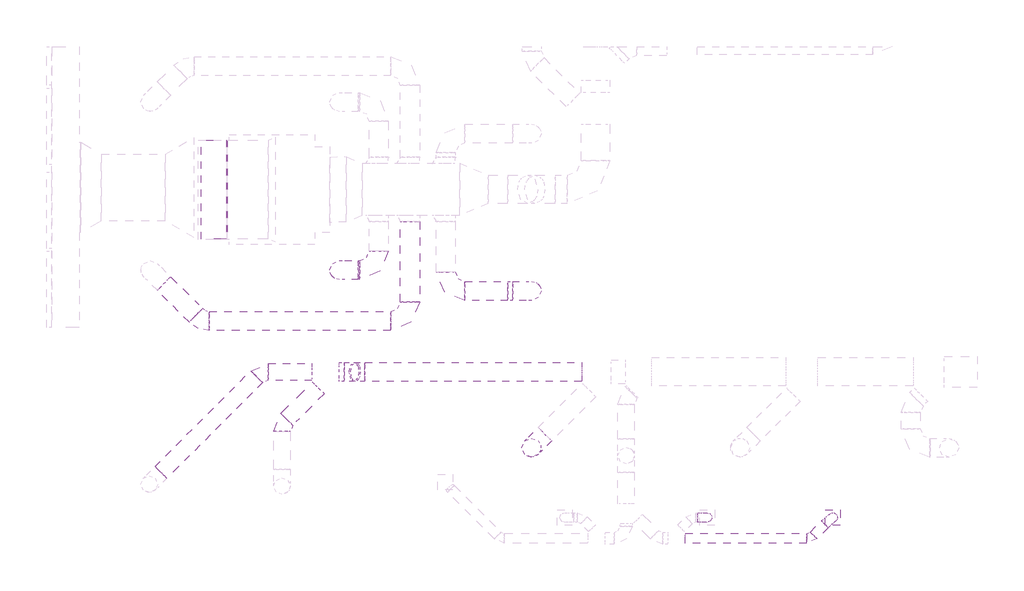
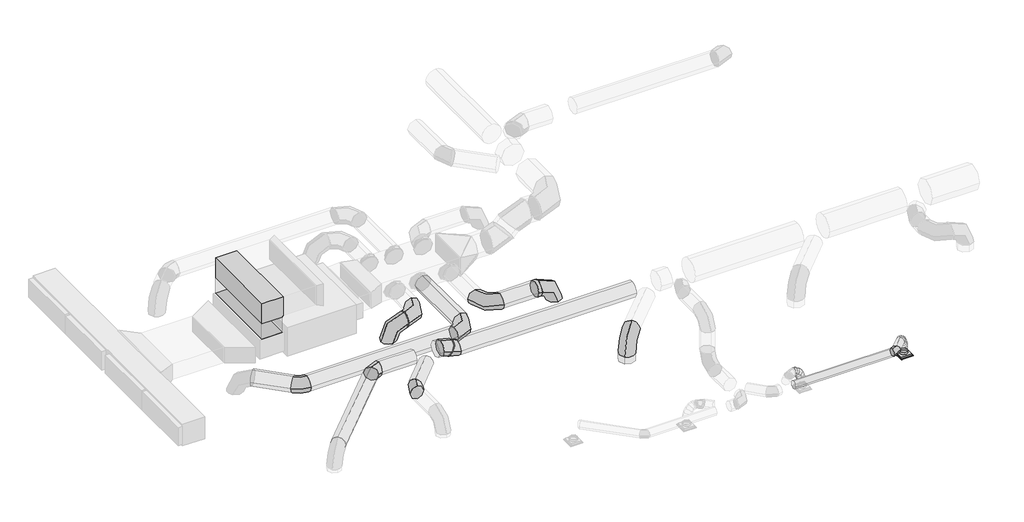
# One storey, part 2 of 33: 17 duct segments, 15 duct fittings, 1 air terminal.
"""IFC4 building model written with IfcOpenShell, lengths in millimetres."""

from ifc_helpers import new_model, si_unit, point, frame, frame_2d, origin, place, context, project, spatial, polyline, circle_curve, ellipse_curve, trimmed, segment, composite_curve, outline, extrude, transform, mapped, element, save
from ifc_brep_helpers import plane_surface, cylinder_surface, advanced_brep
from components import air_terminal_0721d01d, rectangular_elbow_mitered_standard_27e63693, rectangular_transition_angle_45_degree_474c034c, round_elbow_1_d_31d37a02, round_elbow_1_d_8aca8b6e, round_elbow_1_d_146a3901, round_elbow_1_d_9b829473, round_elbow_1_d_880e4a00, round_elbow_1_d_ab3aa7ba, round_transition_angle_45_degree_dc686760

model = new_model("IFC4")

# Units and contexts
model_context = context("Model", 3, world=origin())
ifc_project = project(units=[si_unit("LENGTHUNIT", "METRE", prefix="MILLI")], contexts=[model_context])

# Site, building, storey
site = spatial("IfcSite", under=ifc_project)
building = spatial("IfcBuilding", under=site)
storey = spatial("IfcBuildingStorey", under=building, Name="T.O. SLAB - 1ST", Elevation=-25.4)

# Air terminal
placement = place(None, origin())
air_terminal_shape = air_terminal_0721d01d(model_context)
element("IfcAirTerminal", 1, ObjectType="Titus-Round_Neck_Supply_Diffuser-PCS_Surface_Mount : PCS AA-08_12x12", at=placement, inside=storey, context=model_context, shape_type="MappedRepresentation", body=[
    mapped(air_terminal_shape, transform((14141.421449, 6517.7064145, 3022.6), x_axis=(1.0, 0.0, 0.0), y_axis=(0.0, -1.0, 0.0), z_axis=(0.0, 0.0, -1.0))),
])

# Duct fittings
rectangular_elbow_mitered_standard_shape = rectangular_elbow_mitered_standard_27e63693(model_context)
element("IfcDuctFitting", 2, ObjectType="Rectangular Elbow - Mitered : Standard", at=placement, inside=storey, context=model_context, shape_type="MappedRepresentation", body=[
    mapped(rectangular_elbow_mitered_standard_shape, transform((939.1447938, 13514.942909, 5267.325), x_axis=(0.0, 0.0, 1.0), y_axis=(1.0, 0.0, 0.0), z_axis=(0.0, 1.0, 0.0))),
])
rectangular_transition_angle_45_degree_shape = rectangular_transition_angle_45_degree_474c034c(model_context)
element("IfcDuctFitting", 3, ObjectType="Rectangular Transition - Angle : 45 Degree", at=placement, inside=storey, context=model_context, shape_type="MappedRepresentation", body=[
    mapped(rectangular_transition_angle_45_degree_shape, transform((939.1447938, 13514.942909, 4546.6), x_axis=(0.0, 0.0, 1.0), y_axis=(0.0, 1.0, 0.0), z_axis=(-1.0, 0.0, 0.0))),
])
round_elbow_1_d_shape = round_elbow_1_d_31d37a02(model_context)
element("IfcDuctFitting", 4, ObjectType="Round Elbow : 1 D", at=placement, inside=storey, context=model_context, shape_type="MappedRepresentation", body=[
    mapped(round_elbow_1_d_shape, transform((4057.8113362, 9627.2657862, 4826.0), x_axis=(-1.0, 0.0, 0.0), y_axis=(0.0, 0.0, 1.0), z_axis=(0.0, 1.0, 0.0))),
])
element("IfcDuctFitting", 5, ObjectType="Round Elbow : 1 D", at=placement, inside=storey, context=model_context, shape_type="MappedRepresentation", body=[
    mapped(round_elbow_1_d_shape, transform((3837.8408836, 9627.2657862, 4953.0), x_axis=(-0.8660254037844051, 0.0, 0.5000000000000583), y_axis=(-0.5000000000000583, 0.0, -0.8660254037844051), z_axis=(0.0, -1.0, 0.0))),
])
round_elbow_1_d_2_shape = round_elbow_1_d_8aca8b6e(model_context)
element("IfcDuctFitting", 6, ObjectType="Round Elbow : 1 D", at=placement, inside=storey, context=model_context, shape_type="MappedRepresentation", body=[
    mapped(round_elbow_1_d_2_shape, transform((7715.7566032, 8009.0686647, 4826.0), x_axis=(0.0, 0.0, 1.0), y_axis=(0.7067276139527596, 0.7074857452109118, 0.0), z_axis=(-0.7074857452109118, 0.7067276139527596, 0.0))),
])
element("IfcDuctFitting", 7, ObjectType="Round Elbow : 1 D", at=placement, inside=storey, context=model_context, shape_type="MappedRepresentation", body=[
    mapped(round_elbow_1_d_2_shape, transform((5889.3958641, 11352.970022, 4324.35), x_axis=(0.0, -1.0, 0.0), y_axis=(1.0, 0.0, 0.0), z_axis=(0.0, 0.0, 1.0))),
])
element("IfcDuctFitting", 8, ObjectType="Round Elbow : 1 D", at=placement, inside=storey, context=model_context, shape_type="MappedRepresentation", body=[
    mapped(round_elbow_1_d_2_shape, transform((7721.5404612, 11356.0910045, 4324.35), x_axis=(0.0, 0.0, 1.0), y_axis=(-1.0, 0.0, 0.0), z_axis=(0.0, -1.0, 0.0))),
])
element("IfcDuctFitting", 9, ObjectType="Round Elbow : 1 D", at=placement, inside=storey, context=model_context, shape_type="MappedRepresentation", body=[
    mapped(round_elbow_1_d_2_shape, transform((4462.1769123, 11800.1985722, 4324.35), x_axis=(1.0, 0.0, 0.0), y_axis=(0.0, 1.0, 0.0), z_axis=(0.0, 0.0, 1.0))),
])
element("IfcDuctFitting", 10, ObjectType="Round Elbow : 1 D", at=placement, inside=storey, context=model_context, shape_type="MappedRepresentation", body=[
    mapped(round_elbow_1_d_2_shape, transform((3619.0860401, 11800.1985722, 4324.35), x_axis=(0.0, 0.0, 1.0), y_axis=(1.0, 0.0, 0.0), z_axis=(0.0, 1.0, 0.0))),
])
element("IfcDuctFitting", 11, ObjectType="Round Elbow : 1 D", at=placement, inside=storey, context=model_context, shape_type="MappedRepresentation", body=[
    mapped(round_elbow_1_d_2_shape, transform((5126.1463704, 10713.3656934, 4324.35), x_axis=(1.0, 0.0, 0.0), y_axis=(0.0, 1.0, 0.0), z_axis=(0.0, 0.0, 1.0))),
])
round_elbow_1_d_3_shape = round_elbow_1_d_146a3901(model_context)
element("IfcDuctFitting", 12, ObjectType="Round Elbow : 1 D", at=placement, inside=storey, context=model_context, shape_type="MappedRepresentation", body=[
    mapped(round_elbow_1_d_3_shape, transform((2396.8487535, 8509.4830635, 4953.0), x_axis=(-0.7071067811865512, -0.7071067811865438, 0.0), y_axis=(0.7071067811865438, -0.7071067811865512, 0.0), z_axis=(0.0, 0.0, 1.0))),
])
round_elbow_1_d_4_shape = round_elbow_1_d_9b829473(model_context)
element("IfcDuctFitting", 13, ObjectType="Round Elbow : 1 D", at=placement, inside=storey, context=model_context, shape_type="MappedRepresentation", body=[
    mapped(round_elbow_1_d_4_shape, transform((1961.5759441, 9627.2657862, 4953.0), x_axis=(-1.0, 0.0, 0.0), y_axis=(0.0, -1.0, 0.0), z_axis=(0.0, 0.0, 1.0))),
])
round_elbow_1_d_5_shape = round_elbow_1_d_880e4a00(model_context)
element("IfcDuctFitting", 14, ObjectType="Round Elbow : 1 D", at=placement, inside=storey, context=model_context, shape_type="MappedRepresentation", body=[
    mapped(round_elbow_1_d_5_shape, transform((677.826024, 10713.3656934, 4324.35), x_axis=(0.7068395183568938, -0.7073739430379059, 0.0), y_axis=(0.7073739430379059, 0.7068395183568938, 0.0), z_axis=(0.0, 0.0, 1.0))),
])
round_elbow_1_d_6_shape = round_elbow_1_d_ab3aa7ba(model_context)
element("IfcDuctFitting", 15, ObjectType="Round Elbow : 1 D", at=placement, inside=storey, context=model_context, shape_type="MappedRepresentation", body=[
    mapped(round_elbow_1_d_6_shape, transform((13673.1042647, 6075.9309734, 3530.6), x_axis=(1.0, 0.0, 0.0), y_axis=(0.0, 1.0, 0.0), z_axis=(0.0, 0.0, 1.0))),
])
round_transition_angle_45_degree_shape = round_transition_angle_45_degree_dc686760(model_context)
element("IfcDuctFitting", 16, ObjectType="Round Transition - Angle : 45 Degree", at=placement, inside=storey, context=model_context, shape_type="MappedRepresentation", body=[
    mapped(round_transition_angle_45_degree_shape, transform((7315.1404612, 11356.0910045, 4324.35), x_axis=(-1.0, 0.0, 0.0), y_axis=(0.0, -1.0, 0.0), z_axis=(0.0, 0.0, 1.0))),
])

# Duct segments
element("IfcDuctSegment", 17, ObjectType="Flex - Round", at=placement, inside=storey, context=model_context, shape_type="AdvancedBrep", body=[
    advanced_brep(
    [(11258.5216644, 6620.4479651, 3530.6), (11258.5216644, 6518.8479651, 3429.0), (11258.5216644, 6417.2479651, 3530.6), (11258.5216644, 6518.8479651, 3632.2), (11287.0765951, 6620.4479651, 3530.6), (11262.988756, 6518.8479651, 3429.0), (11286.8730029, 6417.2479651, 3530.6), (11310.960842, 6518.8479651, 3632.2), (11462.0562764, 6619.3058628, 3117.85), (11563.3208973, 6517.3715871, 3117.85), (11461.3866217, 6416.1069662, 3117.85), (11360.1220008, 6518.0412418, 3117.85), (11327.0688566, 6620.3630959, 3510.6024158), (11266.4298971, 6518.8406625, 3427.2793044), (11326.5732161, 6417.1637157, 3510.7484505), (11387.2121757, 6518.6861491, 3594.0715619), (11379.6846401, 6620.1513883, 3457.5185789), (11295.8726748, 6518.722195, 3397.574613), (11379.0352324, 6416.9526268, 3457.8197487), (11462.8471976, 6518.3818201, 3517.7637146), (11417.9798954, 6619.8763817, 3381.5295754), (11322.6113965, 6518.5301784, 3344.5171571), (11417.277896, 6416.6779979, 3381.9351025), (11512.6463948, 6518.0242012, 3418.9475208), (11443.4678861, 6619.6015808, 3292.8187717), (11343.7060603, 6518.3027445, 3271.0973023), (11442.7690069, 6416.4031633, 3293.2134391), (11542.5308327, 6517.7019996, 3314.9349085), (11457.6590402, 6619.3903243, 3201.5355113), (11356.1586925, 6518.1173685, 3190.9969205), (11456.9792005, 6416.1916233, 3201.8077089), (11558.4795482, 6517.4645791, 3212.3462998), (11462.0562764, 6619.3058628, 3123.1343882), (11360.1220008, 6518.0412418, 3120.3325739), (11461.3866217, 6416.1069662, 3123.2249907), (11563.3208973, 6517.3715871, 3126.026805)],
    [
        (0, 1, circle_curve(frame((11258.5216644, 6518.8479651, 3530.6), z_axis=(-1.0, 0.0, 0.0), x_axis=(0.0, 1.0, 0.0)), 101.6)),
        (1, 2, circle_curve(frame((11258.5216644, 6518.8479651, 3530.6), z_axis=(-1.0, 0.0, 0.0), x_axis=(0.0, 1.0, 0.0)), 101.6)),
        (2, 3, circle_curve(frame((11258.5216644, 6518.8479651, 3530.6), z_axis=(-1.0, 0.0, 0.0), x_axis=(0.0, 1.0, 0.0)), 101.6)),
        (3, 0, circle_curve(frame((11258.5216644, 6518.8479651, 3530.6), z_axis=(-1.0, 0.0, 0.0), x_axis=(0.0, 1.0, 0.0)), 101.6)),
        (0, 4),
        (4, 5, ellipse_curve(frame((11286.974799, 6518.8479651, 3530.6), z_axis=(-0.9732452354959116, 0.0009751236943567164, 0.2297667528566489), x_axis=(-0.22976882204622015, -0.004130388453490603, -0.9732364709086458)), 104.3930104, 101.6)),
        (5, 1),
        (5, 6, ellipse_curve(frame((11286.974799, 6518.8479651, 3530.6), z_axis=(-0.9732452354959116, 0.0009751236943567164, 0.2297667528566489), x_axis=(-0.22976882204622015, -0.004130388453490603, -0.9732364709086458)), 104.3930104, 101.6)),
        (6, 2),
        (6, 7, ellipse_curve(frame((11286.974799, 6518.8479651, 3530.6), z_axis=(-0.9732452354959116, 0.0009751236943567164, 0.2297667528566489), x_axis=(-0.22976882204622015, -0.004130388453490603, -0.9732364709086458)), 104.3930104, 101.6)),
        (7, 3),
        (7, 4, ellipse_curve(frame((11286.974799, 6518.8479651, 3530.6), z_axis=(-0.9732452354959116, 0.0009751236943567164, 0.2297667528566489), x_axis=(-0.22976882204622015, -0.004130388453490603, -0.9732364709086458)), 104.3930104, 101.6)),
        (8, 9, circle_curve(frame((11461.721449, 6517.7064145, 3117.85), z_axis=(0.0, 0.0, -1.0), x_axis=(0.0032955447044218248, 0.9999945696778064, 0.0)), 101.6)),
        (9, 10, circle_curve(frame((11461.721449, 6517.7064145, 3117.85), z_axis=(0.0, 0.0, -1.0), x_axis=(0.0032955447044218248, 0.9999945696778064, 0.0)), 101.6)),
        (10, 11, circle_curve(frame((11461.721449, 6517.7064145, 3117.85), z_axis=(0.0, 0.0, -1.0), x_axis=(0.0032955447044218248, 0.9999945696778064, 0.0)), 101.6)),
        (11, 8, circle_curve(frame((11461.721449, 6517.7064145, 3117.85), z_axis=(0.0, 0.0, -1.0), x_axis=(0.0032955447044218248, 0.9999945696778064, 0.0)), 101.6)),
        (4, 12),
        (12, 13, ellipse_curve(frame((11326.8210364, 6518.7634058, 3510.6754331), z_axis=(-0.8099348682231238, 0.0023970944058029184, 0.5865149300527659), x_axis=(-0.586519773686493, -0.002877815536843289, -0.8099297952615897)), 102.9660805, 101.6)),
        (13, 5),
        (13, 14, ellipse_curve(frame((11326.8210364, 6518.7634058, 3510.6754331), z_axis=(-0.8099348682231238, 0.0023970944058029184, 0.5865149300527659), x_axis=(-0.586519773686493, -0.002877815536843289, -0.8099297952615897)), 102.9660805, 101.6)),
        (14, 6),
        (14, 15, ellipse_curve(frame((11326.8210364, 6518.7634058, 3510.6754331), z_axis=(-0.8099348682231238, 0.0023970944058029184, 0.5865149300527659), x_axis=(-0.586519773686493, -0.002877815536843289, -0.8099297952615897)), 102.9660805, 101.6)),
        (15, 7),
        (15, 12, ellipse_curve(frame((11326.8210364, 6518.7634058, 3510.6754331), z_axis=(-0.8099348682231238, 0.0023970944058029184, 0.5865149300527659), x_axis=(-0.586519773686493, -0.002877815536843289, -0.8099297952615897)), 102.9660805, 101.6)),
        (12, 16),
        (16, 17, ellipse_curve(frame((11379.3599362, 6518.5520075, 3457.6691638), z_axis=(-0.5841936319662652, 0.0030699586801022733, 0.8116085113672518), x_axis=(-0.8116139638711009, -0.0012762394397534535, -0.5841927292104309)), 102.8664625, 101.6)),
        (17, 13),
        (17, 18, ellipse_curve(frame((11379.3599362, 6518.5520075, 3457.6691638), z_axis=(-0.5841936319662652, 0.0030699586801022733, 0.8116085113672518), x_axis=(-0.8116139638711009, -0.0012762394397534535, -0.5841927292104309)), 102.8664625, 101.6)),
        (18, 14),
        (18, 19, ellipse_curve(frame((11379.3599362, 6518.5520075, 3457.6691638), z_axis=(-0.5841936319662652, 0.0030699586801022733, 0.8116085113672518), x_axis=(-0.8116139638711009, -0.0012762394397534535, -0.5841927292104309)), 102.8664625, 101.6)),
        (19, 15),
        (19, 16, ellipse_curve(frame((11379.3599362, 6518.5520075, 3457.6691638), z_axis=(-0.5841936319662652, 0.0030699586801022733, 0.8116085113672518), x_axis=(-0.8116139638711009, -0.0012762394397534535, -0.5841927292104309)), 102.8664625, 101.6)),
        (16, 20),
        (20, 21, ellipse_curve(frame((11417.6288957, 6518.2771898, 3381.7323389), z_axis=(-0.36468288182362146, 0.0031181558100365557, 0.9311265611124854), x_axis=(-0.9311286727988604, 0.001363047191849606, -0.36468827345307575)), 102.0458672, 101.6)),
        (21, 17),
        (21, 22, ellipse_curve(frame((11417.6288957, 6518.2771898, 3381.7323389), z_axis=(-0.36468288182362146, 0.0031181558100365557, 0.9311265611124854), x_axis=(-0.9311286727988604, 0.001363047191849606, -0.36468827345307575)), 102.0458672, 101.6)),
        (22, 18),
        (22, 23, ellipse_curve(frame((11417.6288957, 6518.2771898, 3381.7323389), z_axis=(-0.36468288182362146, 0.0031181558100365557, 0.9311265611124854), x_axis=(-0.9311286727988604, 0.001363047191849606, -0.36468827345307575)), 102.0458672, 101.6)),
        (23, 19),
        (23, 20, ellipse_curve(frame((11417.6288957, 6518.2771898, 3381.7323389), z_axis=(-0.36468288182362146, 0.0031181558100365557, 0.9311265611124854), x_axis=(-0.9311286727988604, 0.001363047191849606, -0.36468827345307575)), 102.0458672, 101.6)),
        (20, 24),
        (24, 25, ellipse_curve(frame((11443.1184465, 6518.0023721, 3293.0161054), z_axis=(-0.2153038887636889, 0.002637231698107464, 0.9765435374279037), x_axis=(-0.976529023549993, 0.005502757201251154, -0.21531554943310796)), 101.8005253, 101.6)),
        (25, 21),
        (25, 26, ellipse_curve(frame((11443.1184465, 6518.0023721, 3293.0161054), z_axis=(-0.2153038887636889, 0.002637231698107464, 0.9765435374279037), x_axis=(-0.976529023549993, 0.005502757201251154, -0.21531554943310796)), 101.8005253, 101.6)),
        (26, 22),
        (26, 27, ellipse_curve(frame((11443.1184465, 6518.0023721, 3293.0161054), z_axis=(-0.2153038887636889, 0.002637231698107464, 0.9765435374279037), x_axis=(-0.976529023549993, 0.005502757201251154, -0.21531554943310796)), 101.8005253, 101.6)),
        (27, 23),
        (27, 24, ellipse_curve(frame((11443.1184465, 6518.0023721, 3293.0161054), z_axis=(-0.2153038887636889, 0.002637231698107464, 0.9765435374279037), x_axis=(-0.976529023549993, 0.005502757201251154, -0.21531554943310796)), 101.8005253, 101.6)),
        (24, 28),
        (28, 29, ellipse_curve(frame((11457.3191204, 6517.7909738, 3201.6716101), z_axis=(-0.10493423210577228, 0.0016832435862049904, 0.9944777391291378), x_axis=(-0.9944012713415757, 0.01233810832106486, -0.10494704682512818)), 101.722612, 101.6)),
        (29, 25),
        (29, 30, ellipse_curve(frame((11457.3191204, 6517.7909738, 3201.6716101), z_axis=(-0.10493423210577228, 0.0016832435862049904, 0.9944777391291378), x_axis=(-0.9944012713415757, 0.01233810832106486, -0.10494704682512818)), 101.722612, 101.6)),
        (30, 26),
        (30, 31, ellipse_curve(frame((11457.3191204, 6517.7909738, 3201.6716101), z_axis=(-0.10493423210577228, 0.0016832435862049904, 0.9944777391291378), x_axis=(-0.9944012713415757, 0.01233810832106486, -0.10494704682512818)), 101.722612, 101.6)),
        (31, 27),
        (31, 28, ellipse_curve(frame((11457.3191204, 6517.7909738, 3201.6716101), z_axis=(-0.10493423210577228, 0.0016832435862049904, 0.9944777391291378), x_axis=(-0.9944012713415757, 0.01233810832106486, -0.10494704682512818)), 101.722612, 101.6)),
        (28, 32),
        (32, 33, ellipse_curve(frame((11461.721449, 6517.7064145, 3123.1796895), z_axis=(-0.02801017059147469, 0.0005380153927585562, 0.9996074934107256), x_axis=(-0.9994231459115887, 0.019196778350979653, -0.028015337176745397)), 101.6398943, 101.6)),
        (33, 29),
        (33, 34, ellipse_curve(frame((11461.721449, 6517.7064145, 3123.1796895), z_axis=(-0.02801017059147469, 0.0005380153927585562, 0.9996074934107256), x_axis=(-0.9994231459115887, 0.019196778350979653, -0.028015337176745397)), 101.6398943, 101.6)),
        (34, 30),
        (34, 35, ellipse_curve(frame((11461.721449, 6517.7064145, 3123.1796895), z_axis=(-0.02801017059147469, 0.0005380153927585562, 0.9996074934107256), x_axis=(-0.9994231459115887, 0.019196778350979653, -0.028015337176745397)), 101.6398943, 101.6)),
        (35, 31),
        (35, 32, ellipse_curve(frame((11461.721449, 6517.7064145, 3123.1796895), z_axis=(-0.02801017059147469, 0.0005380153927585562, 0.9996074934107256), x_axis=(-0.9994231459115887, 0.019196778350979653, -0.028015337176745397)), 101.6398943, 101.6)),
        (32, 8),
        (11, 33),
        (10, 34),
        (9, 35),
    ],
    [
        plane_surface(frame((11258.5216644, 6518.8479651, 3429.0), z_axis=(-1.0, 0.0, 0.0), x_axis=(0.0, 1.0, 0.0))),
        cylinder_surface(frame((11258.5216644, 6518.8479651, 3530.6), z_axis=(-1.0, 0.0, 0.0), x_axis=(0.0, 1.0, 0.0)), 101.6),
        plane_surface(frame((11461.721449, 6416.1064145, 3117.85), z_axis=(0.0, 0.0, -1.0), x_axis=(-1.0, 0.0, 0.0))),
        cylinder_surface(frame((11286.974799, 6518.8479651, 3530.6), z_axis=(-0.8944125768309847, 0.0018980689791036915, 0.4472387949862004), x_axis=(0.0018980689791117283, 0.9999980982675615, -0.00044810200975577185)), 101.6),
        cylinder_surface(frame((11326.8210364, 6518.7634058, 3510.6754331), z_axis=(-0.7039658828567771, 0.0028325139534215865, 0.7102281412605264), x_axis=(0.002865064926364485, 0.9999952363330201, -0.0011483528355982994)), 101.6),
        cylinder_surface(frame((11379.3599362, 6518.5520075, 3457.6691638), z_axis=(-0.4500365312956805, 0.0032318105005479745, 0.893004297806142), x_axis=(0.0034074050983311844, 0.9999923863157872, -0.0019018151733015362)), 101.6),
        cylinder_surface(frame((11417.6288957, 6518.2771898, 3381.7323389), z_axis=(-0.2761424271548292, 0.002977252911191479, 0.9611121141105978), x_axis=(0.0034837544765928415, 0.9999917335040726, -0.002096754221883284)), 101.6),
        cylinder_surface(frame((11443.1184465, 6518.0023721, 3293.0161054), z_axis=(-0.15361714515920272, 0.002286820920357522, 0.9881277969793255), x_axis=(0.0034146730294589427, 0.9999925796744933, -0.0017834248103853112)), 101.6),
        cylinder_surface(frame((11457.3191204, 6517.7909738, 3201.6716101), z_axis=(-0.05599835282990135, 0.0010756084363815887, 0.9984302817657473), x_axis=(0.0033205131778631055, 0.9999940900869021, -0.0008910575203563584)), 101.6),
        cylinder_surface(frame((11461.721449, 6517.7064145, 3123.1796895), z_axis=(0.0, 0.0, 1.0), x_axis=(0.0032955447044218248, 0.9999945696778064, 0.0)), 101.6),
    ],
    [
        (0, [[1, 2, 3, 4]]),
        (1, [[-1, 5, 6, 7]]),
        (1, [[-2, -7, 8, 9]]),
        (1, [[-3, -9, 10, 11]]),
        (1, [[-4, -11, 12, -5]]),
        (2, [[13, 14, 15, 16]]),
        (3, [[-6, 17, 18, 19]]),
        (3, [[-8, -19, 20, 21]]),
        (3, [[-10, -21, 22, 23]]),
        (3, [[-12, -23, 24, -17]]),
        (4, [[-18, 25, 26, 27]]),
        (4, [[-20, -27, 28, 29]]),
        (4, [[-22, -29, 30, 31]]),
        (4, [[-24, -31, 32, -25]]),
        (5, [[-26, 33, 34, 35]]),
        (5, [[-28, -35, 36, 37]]),
        (5, [[-30, -37, 38, 39]]),
        (5, [[-32, -39, 40, -33]]),
        (6, [[-34, 41, 42, 43]]),
        (6, [[-36, -43, 44, 45]]),
        (6, [[-38, -45, 46, 47]]),
        (6, [[-40, -47, 48, -41]]),
        (7, [[-42, 49, 50, 51]]),
        (7, [[-44, -51, 52, 53]]),
        (7, [[-46, -53, 54, 55]]),
        (7, [[-48, -55, 56, -49]]),
        (8, [[-50, 57, 58, 59]]),
        (8, [[-52, -59, 60, 61]]),
        (8, [[-54, -61, 62, 63]]),
        (8, [[-56, -63, 64, -57]]),
        (9, [[-58, 65, -16, 66]]),
        (9, [[-60, -66, -15, 67]]),
        (9, [[-62, -67, -14, 68]]),
        (9, [[-64, -68, -13, -65]]),
    ],
),
])
element("IfcDuctSegment", 18, ObjectType="Flex - Round", at=placement, inside=storey, context=model_context, shape_type="AdvancedBrep", body=[
    advanced_brep(
    [(13900.495412, 6447.0062186, 3530.6), (13972.3374609, 6375.1641697, 3429.0), (14044.1795099, 6303.3221207, 3530.6), (13972.3374609, 6375.1641697, 3632.2), (13920.9551312, 6467.4659378, 3530.6), (13976.0474481, 6378.8741569, 3429.0), (14062.4346554, 6321.5772662, 3530.6), (14007.3423384, 6410.1690471, 3632.2), (14073.474863, 6593.2433025, 3117.85), (14216.9583371, 6585.6530005, 3117.85), (14209.3680351, 6442.1695265, 3117.85), (14065.884561, 6449.7598285, 3117.85), (13954.1545388, 6498.5925944, 3509.7943662), (13981.8146334, 6384.2812773, 3425.3857806), (14092.2161479, 6349.4993996, 3511.9363288), (14064.5560533, 6463.8107168, 3596.3449145), (13997.1704762, 6536.5795704, 3455.9880756), (14006.1803295, 6405.7983978, 3394.9080599), (14133.2848696, 6385.7668075, 3460.5657041), (14124.2750164, 6516.54798, 3521.6457198), (14030.5725949, 6563.522131, 3379.6431664), (14029.531185, 6424.6334856, 3341.5366268), (14165.964303, 6412.1264411, 3385.8725867), (14167.0057129, 6551.0150864, 3423.9791263), (14054.399629, 6580.9638242, 3291.17695), (14049.1252575, 6438.976597, 3268.7867638), (14189.8237126, 6429.5918336, 3297.2861649), (14195.098084, 6571.5790608, 3319.6763511), (14068.7026048, 6590.4015602, 3200.4965908), (14061.6079541, 6447.2132322, 3189.6469107), (14204.4200706, 6439.2231562, 3204.7457732), (14211.5147213, 6582.4114841, 3215.5954533), (14073.474863, 6593.2433025, 3123.8999029), (14065.884561, 6449.7598285, 3121.0056273), (14209.3680351, 6442.1695265, 3125.3289279), (14216.9583371, 6585.6530005, 3128.2232036)],
    [
        (0, 1, circle_curve(frame((13972.3374609, 6375.1641697, 3530.6), z_axis=(-0.7071067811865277, -0.7071067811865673, 0.0), x_axis=(-0.7071067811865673, 0.7071067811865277, 0.0)), 101.6)),
        (1, 2, circle_curve(frame((13972.3374609, 6375.1641697, 3530.6), z_axis=(-0.7071067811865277, -0.7071067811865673, 0.0), x_axis=(-0.7071067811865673, 0.7071067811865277, 0.0)), 101.6)),
        (2, 3, circle_curve(frame((13972.3374609, 6375.1641697, 3530.6), z_axis=(-0.7071067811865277, -0.7071067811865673, 0.0), x_axis=(-0.7071067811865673, 0.7071067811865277, 0.0)), 101.6)),
        (3, 0, circle_curve(frame((13972.3374609, 6375.1641697, 3530.6), z_axis=(-0.7071067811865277, -0.7071067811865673, 0.0), x_axis=(-0.7071067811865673, 0.7071067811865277, 0.0)), 101.6)),
        (0, 4),
        (4, 5, ellipse_curve(frame((13991.6948933, 6394.521602, 3530.6), z_axis=(-0.7014308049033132, -0.6802316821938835, 0.21279023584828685), x_axis=(-0.10229288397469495, -0.19938371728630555, -0.9745677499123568)), 103.9936303, 101.6)),
        (5, 1),
        (5, 6, ellipse_curve(frame((13991.6948933, 6394.521602, 3530.6), z_axis=(-0.7014308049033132, -0.6802316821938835, 0.21279023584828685), x_axis=(-0.10229288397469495, -0.19938371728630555, -0.9745677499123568)), 103.9936303, 101.6)),
        (6, 2),
        (6, 7, ellipse_curve(frame((13991.6948933, 6394.521602, 3530.6), z_axis=(-0.7014308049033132, -0.6802316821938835, 0.21279023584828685), x_axis=(-0.10229288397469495, -0.19938371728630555, -0.9745677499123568)), 103.9936303, 101.6)),
        (7, 3),
        (7, 4, ellipse_curve(frame((13991.6948933, 6394.521602, 3530.6), z_axis=(-0.7014308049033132, -0.6802316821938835, 0.21279023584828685), x_axis=(-0.10229288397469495, -0.19938371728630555, -0.9745677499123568)), 103.9936303, 101.6)),
        (8, 9, circle_curve(frame((14141.421449, 6517.7064145, 3117.85), z_axis=(0.0, 0.0, -1.0), x_axis=(-0.6687656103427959, 0.7434733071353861, 0.0)), 101.6)),
        (9, 10, circle_curve(frame((14141.421449, 6517.7064145, 3117.85), z_axis=(0.0, 0.0, -1.0), x_axis=(-0.6687656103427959, 0.7434733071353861, 0.0)), 101.6)),
        (10, 11, circle_curve(frame((14141.421449, 6517.7064145, 3117.85), z_axis=(0.0, 0.0, -1.0), x_axis=(-0.6687656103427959, 0.7434733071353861, 0.0)), 101.6)),
        (11, 8, circle_curve(frame((14141.421449, 6517.7064145, 3117.85), z_axis=(0.0, 0.0, -1.0), x_axis=(-0.6687656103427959, 0.7434733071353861, 0.0)), 101.6)),
        (4, 12),
        (12, 13, ellipse_curve(frame((14023.1853434, 6424.045997, 3510.8653475), z_axis=(-0.6132321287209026, -0.559852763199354, 0.5572353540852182), x_axis=(-0.3601759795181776, -0.42966057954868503, -0.8280489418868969)), 102.9590166, 101.6)),
        (13, 5),
        (13, 14, ellipse_curve(frame((14023.1853434, 6424.045997, 3510.8653475), z_axis=(-0.6132321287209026, -0.559852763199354, 0.5572353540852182), x_axis=(-0.3601759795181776, -0.42966057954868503, -0.8280489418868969)), 102.9590166, 101.6)),
        (14, 6),
        (14, 15, ellipse_curve(frame((14023.1853434, 6424.045997, 3510.8653475), z_axis=(-0.6132321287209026, -0.559852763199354, 0.5572353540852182), x_axis=(-0.3601759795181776, -0.42966057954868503, -0.8280489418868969)), 102.9590166, 101.6)),
        (15, 7),
        (15, 12, ellipse_curve(frame((14023.1853434, 6424.045997, 3510.8653475), z_axis=(-0.6132321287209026, -0.559852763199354, 0.5572353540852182), x_axis=(-0.3601759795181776, -0.42966057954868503, -0.8280489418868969)), 102.9590166, 101.6)),
        (12, 16),
        (16, 17, ellipse_curve(frame((14065.2276729, 6461.1731889, 3458.2768898), z_axis=(-0.46961201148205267, -0.3999527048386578, 0.7870847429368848), x_axis=(-0.5414852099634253, -0.5736611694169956, -0.6145784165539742)), 102.8063613, 101.6)),
        (17, 13),
        (17, 18, ellipse_curve(frame((14065.2276729, 6461.1731889, 3458.2768898), z_axis=(-0.46961201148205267, -0.3999527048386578, 0.7870847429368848), x_axis=(-0.5414852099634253, -0.5736611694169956, -0.6145784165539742)), 102.8063613, 101.6)),
        (18, 14),
        (18, 19, ellipse_curve(frame((14065.2276729, 6461.1731889, 3458.2768898), z_axis=(-0.46961201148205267, -0.3999527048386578, 0.7870847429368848), x_axis=(-0.5414852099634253, -0.5736611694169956, -0.6145784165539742)), 102.8063613, 101.6)),
        (19, 15),
        (19, 16, ellipse_curve(frame((14065.2276729, 6461.1731889, 3458.2768898), z_axis=(-0.46961201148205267, -0.3999527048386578, 0.7870847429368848), x_axis=(-0.5414852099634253, -0.5736611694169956, -0.6145784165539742)), 102.8063613, 101.6)),
        (16, 20),
        (20, 21, ellipse_curve(frame((14098.268449, 6487.824286, 3382.7578766), z_axis=(-0.3198907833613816, -0.24845499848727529, 0.9142975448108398), x_axis=(-0.6608099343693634, -0.6330393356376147, -0.40322627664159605)), 102.0642638, 101.6)),
        (21, 17),
        (21, 22, ellipse_curve(frame((14098.268449, 6487.824286, 3382.7578766), z_axis=(-0.3198907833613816, -0.24845499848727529, 0.9142975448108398), x_axis=(-0.6608099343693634, -0.6330393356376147, -0.40322627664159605)), 102.0642638, 101.6)),
        (22, 18),
        (22, 23, ellipse_curve(frame((14098.268449, 6487.824286, 3382.7578766), z_axis=(-0.3198907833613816, -0.24845499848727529, 0.9142975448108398), x_axis=(-0.6608099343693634, -0.6330393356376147, -0.40322627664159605)), 102.0642638, 101.6)),
        (23, 19),
        (23, 20, ellipse_curve(frame((14098.268449, 6487.824286, 3382.7578766), z_axis=(-0.3198907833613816, -0.24845499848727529, 0.9142975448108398), x_axis=(-0.6608099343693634, -0.6330393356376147, -0.40322627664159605)), 102.0642638, 101.6)),
        (20, 24),
        (24, 25, ellipse_curve(frame((14122.1116708, 6505.2778289, 3294.2315574), z_axis=(-0.2057074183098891, -0.14497494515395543, 0.9678154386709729), x_axis=(-0.7400268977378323, -0.6240767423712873, -0.2507756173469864)), 101.8350063, 101.6)),
        (25, 21),
        (25, 26, ellipse_curve(frame((14122.1116708, 6505.2778289, 3294.2315574), z_axis=(-0.2057074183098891, -0.14497494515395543, 0.9678154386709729), x_axis=(-0.7400268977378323, -0.6240767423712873, -0.2507756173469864)), 101.8350063, 101.6)),
        (26, 22),
        (26, 27, ellipse_curve(frame((14122.1116708, 6505.2778289, 3294.2315574), z_axis=(-0.2057074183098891, -0.14497494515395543, 0.9678154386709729), x_axis=(-0.7400268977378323, -0.6240767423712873, -0.2507756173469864)), 101.8350063, 101.6)),
        (27, 23),
        (27, 24, ellipse_curve(frame((14122.1116708, 6505.2778289, 3294.2315574), z_axis=(-0.2057074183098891, -0.14497494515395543, 0.9678154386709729), x_axis=(-0.7400268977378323, -0.6240767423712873, -0.2507756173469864)), 101.8350063, 101.6)),
        (24, 28),
        (28, 29, ellipse_curve(frame((14136.5613377, 6514.8123582, 3202.621182), z_axis=(-0.10874172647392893, -0.06974922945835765, 0.9916200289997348), x_axis=(-0.8112613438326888, -0.570258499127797, -0.12907469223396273)), 101.7667541, 101.6)),
        (29, 25),
        (29, 30, ellipse_curve(frame((14136.5613377, 6514.8123582, 3202.621182), z_axis=(-0.10874172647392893, -0.06974922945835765, 0.9916200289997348), x_axis=(-0.8112613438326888, -0.570258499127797, -0.12907469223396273)), 101.7667541, 101.6)),
        (30, 26),
        (30, 31, ellipse_curve(frame((14136.5613377, 6514.8123582, 3202.621182), z_axis=(-0.10874172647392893, -0.06974922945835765, 0.9916200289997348), x_axis=(-0.8112613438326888, -0.570258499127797, -0.12907469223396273)), 101.7667541, 101.6)),
        (31, 27),
        (31, 28, ellipse_curve(frame((14136.5613377, 6514.8123582, 3202.621182), z_axis=(-0.10874172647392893, -0.06974922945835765, 0.9916200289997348), x_axis=(-0.8112613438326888, -0.570258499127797, -0.12907469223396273)), 101.7667541, 101.6)),
        (28, 32),
        (32, 33, ellipse_curve(frame((14141.421449, 6517.7064145, 3124.6144154), z_axis=(-0.03109063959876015, -0.01851358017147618, 0.999345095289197), x_axis=(-0.8586421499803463, -0.5112966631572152, -0.03618536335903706)), 101.6665819, 101.6)),
        (33, 29),
        (33, 34, ellipse_curve(frame((14141.421449, 6517.7064145, 3124.6144154), z_axis=(-0.03109063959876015, -0.01851358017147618, 0.999345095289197), x_axis=(-0.8586421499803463, -0.5112966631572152, -0.03618536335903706)), 101.6665819, 101.6)),
        (34, 30),
        (34, 35, ellipse_curve(frame((14141.421449, 6517.7064145, 3124.6144154), z_axis=(-0.03109063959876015, -0.01851358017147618, 0.999345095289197), x_axis=(-0.8586421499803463, -0.5112966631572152, -0.03618536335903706)), 101.6665819, 101.6)),
        (35, 31),
        (35, 32, ellipse_curve(frame((14141.421449, 6517.7064145, 3124.6144154), z_axis=(-0.03109063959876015, -0.01851358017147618, 0.999345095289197), x_axis=(-0.8586421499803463, -0.5112966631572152, -0.03618536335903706)), 101.6665819, 101.6)),
        (32, 8),
        (11, 33),
        (10, 34),
        (9, 35),
    ],
    [
        plane_surface(frame((13972.3374609, 6375.1641697, 3632.2), z_axis=(-0.707106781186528, -0.7071067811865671, 0.0), x_axis=(0.7071067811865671, -0.707106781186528, 0.0))),
        cylinder_surface(frame((13972.3374609, 6375.1641697, 3530.6), z_axis=(-0.7071067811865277, -0.7071067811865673, 0.0), x_axis=(-0.7071067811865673, 0.7071067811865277, 0.0)), 101.6),
        plane_surface(frame((14141.421449, 6416.1064145, 3117.85), z_axis=(0.0, 0.0, -1.0), x_axis=(-1.0, 0.0, 0.0))),
        cylinder_surface(frame((13991.6948933, 6394.521602, 3530.6), z_axis=(-0.6634650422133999, -0.6220426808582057, 0.4157848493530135), x_axis=(-0.686077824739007, 0.7275001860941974, -0.006379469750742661)), 101.6),
        cylinder_surface(frame((14023.1853434, 6424.045997, 3510.8653475), z_axis=(-0.5468103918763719, -0.4828831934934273, 0.6839753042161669), x_axis=(-0.673963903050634, 0.7385596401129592, -0.017387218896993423)), 101.6),
        cylinder_surface(frame((14065.2276729, 6461.1731889, 3458.2768898), z_axis=(-0.3813924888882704, -0.3076358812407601, 0.8717223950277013), x_axis=(-0.6669879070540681, 0.7445008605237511, -0.029079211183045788)), 101.6),
        cylinder_surface(frame((14098.268449, 6487.824286, 3382.7578766), z_axis=(-0.2554788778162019, -0.18701380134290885, 0.9485548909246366), x_axis=(-0.6658354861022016, 0.7453959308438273, -0.032373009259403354)), 101.6),
        cylinder_surface(frame((14122.1116708, 6505.2778289, 3294.2315574), z_axis=(-0.15498653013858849, -0.10226696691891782, 0.9826090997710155), x_axis=(-0.6668342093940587, 0.7446920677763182, -0.02767420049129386)), 101.6),
        cylinder_surface(frame((14136.5613377, 6514.8123582, 3202.621182), z_axis=(-0.06214055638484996, -0.037002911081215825, 0.9973812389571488), x_axis=(-0.6683286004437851, 0.7437335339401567, -0.014046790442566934)), 101.6),
        cylinder_surface(frame((14141.421449, 6517.7064145, 3124.6144154), z_axis=(0.0, 0.0, 1.0000000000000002), x_axis=(-0.6687656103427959, 0.7434733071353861, 0.0)), 101.6),
    ],
    [
        (0, [[1, 2, 3, 4]]),
        (1, [[-1, 5, 6, 7]]),
        (1, [[-2, -7, 8, 9]]),
        (1, [[-3, -9, 10, 11]]),
        (1, [[-4, -11, 12, -5]]),
        (2, [[13, 14, 15, 16]]),
        (3, [[-6, 17, 18, 19]]),
        (3, [[-8, -19, 20, 21]]),
        (3, [[-10, -21, 22, 23]]),
        (3, [[-12, -23, 24, -17]]),
        (4, [[-18, 25, 26, 27]]),
        (4, [[-20, -27, 28, 29]]),
        (4, [[-22, -29, 30, 31]]),
        (4, [[-24, -31, 32, -25]]),
        (5, [[-26, 33, 34, 35]]),
        (5, [[-28, -35, 36, 37]]),
        (5, [[-30, -37, 38, 39]]),
        (5, [[-32, -39, 40, -33]]),
        (6, [[-34, 41, 42, 43]]),
        (6, [[-36, -43, 44, 45]]),
        (6, [[-38, -45, 46, 47]]),
        (6, [[-40, -47, 48, -41]]),
        (7, [[-42, 49, 50, 51]]),
        (7, [[-44, -51, 52, 53]]),
        (7, [[-46, -53, 54, 55]]),
        (7, [[-48, -55, 56, -49]]),
        (8, [[-50, 57, 58, 59]]),
        (8, [[-52, -59, 60, 61]]),
        (8, [[-54, -61, 62, 63]]),
        (8, [[-56, -63, 64, -57]]),
        (9, [[-58, 65, -16, 66]]),
        (9, [[-60, -66, -15, 67]]),
        (9, [[-62, -67, -14, 68]]),
        (9, [[-64, -68, -13, -65]]),
    ],
),
])
element("IfcDuctSegment", 19, ObjectType="Mitered Elbows / Tees", at=placement, inside=storey, context=model_context, shape_type="SweptSolid", body=[
    extrude(outline(polyline([(672.4447938, 12460.842909), (672.4447938, 14569.042909), (1205.8447938, 14569.042909), (1205.8447938, 12460.842909), (672.4447938, 12460.842909)])), frame((0.0, 0.0, 4550.432564), z_axis=(0.0, 0.0, 1.0), x_axis=(1.0, 0.0, 0.0)), (0.0, 0.0, 1.0), 424.792436),
])
element("IfcDuctSegment", 20, ObjectType="Taps", at=placement, inside=storey, context=model_context, shape_type="SweptSolid", body=[
    extrude(outline(composite_curve([segment(trimmed(circle_curve(frame_2d((7715.7566032, 8009.0686647)), 203.2), [point((7859.5177066, 7865.4616135))], [point((7572.149552, 7865.3075613))], False, "CARTESIAN"), True, "CONTINUOUS"), segment(trimmed(circle_curve(frame_2d((7715.7566032, 8009.0686647)), 203.2), [point((7572.149552, 7865.3075613))], [point((7571.9954997, 8152.6757159))], False, "CARTESIAN"), True, "CONTINUOUS"), segment(trimmed(circle_curve(frame_2d((7715.7566032, 8009.0686647)), 203.2), [point((7571.9954997, 8152.6757159))], [point((7859.3636543, 8152.8297681))], False, "CARTESIAN"), True, "CONTINUOUS"), segment(trimmed(circle_curve(frame_2d((7715.7566032, 8009.0686647)), 203.2), [point((7859.3636543, 8152.8297681))], [point((7859.5177066, 7865.4616135))], False, "CARTESIAN"), True, "CONTINUOUS")], self_intersect=False)), frame((0.0, 0.0, 4216.4), z_axis=(0.0, 0.0, 1.0), x_axis=(1.0, 0.0, 0.0)), (0.0, 0.0, 1.0), 203.2),
])
element("IfcDuctSegment", 21, ObjectType="Taps", at=placement, inside=storey, context=model_context, shape_type="SweptSolid", body=[
    extrude(outline(composite_curve([segment(trimmed(circle_curve(frame_2d((9627.2657862, 4826.0)), 203.2), [point((9830.4657862, 4826.0))], [point((9627.2657862, 4622.8))], False, "CARTESIAN"), True, "CONTINUOUS"), segment(trimmed(circle_curve(frame_2d((9627.2657862, 4826.0)), 203.2), [point((9627.2657862, 4622.8))], [point((9424.0657862, 4826.0))], False, "CARTESIAN"), True, "CONTINUOUS"), segment(trimmed(circle_curve(frame_2d((9627.2657862, 4826.0)), 203.2), [point((9424.0657862, 4826.0))], [point((9627.2657862, 5029.2))], False, "CARTESIAN"), True, "CONTINUOUS"), segment(trimmed(circle_curve(frame_2d((9627.2657862, 4826.0)), 203.2), [point((9627.2657862, 5029.2))], [point((9830.4657862, 4826.0))], False, "CARTESIAN"), True, "CONTINUOUS")], self_intersect=False)), frame((4166.705888, 0.0, 0.0), z_axis=(1.0, 0.0, 0.0), x_axis=(0.0, 1.0, 0.0)), (0.0, 0.0, 1.0), 4620.4877197),
])
element("IfcDuctSegment", 22, ObjectType="Taps", at=placement, inside=storey, context=model_context, shape_type="SweptSolid", body=[
    extrude(outline(composite_curve([segment(trimmed(circle_curve(frame_2d((11352.970022, 4324.35)), 203.2), [point((11149.770022, 4324.35))], [point((11352.970022, 4527.55))], False, "CARTESIAN"), True, "CONTINUOUS"), segment(trimmed(circle_curve(frame_2d((11352.970022, 4324.35)), 203.2), [point((11352.970022, 4527.55))], [point((11556.170022, 4324.35))], False, "CARTESIAN"), True, "CONTINUOUS"), segment(trimmed(circle_curve(frame_2d((11352.970022, 4324.35)), 203.2), [point((11556.170022, 4324.35))], [point((11352.970022, 4121.15))], False, "CARTESIAN"), True, "CONTINUOUS"), segment(trimmed(circle_curve(frame_2d((11352.970022, 4324.35)), 203.2), [point((11352.970022, 4121.15))], [point((11149.770022, 4324.35))], False, "CARTESIAN"), True, "CONTINUOUS")], self_intersect=False)), frame((6295.7958641, 0.0, 0.0), z_axis=(1.0, 0.0, 0.0), x_axis=(0.0, 1.0, 0.0)), (0.0, 0.0, 1.0), 917.7445971),
])
element("IfcDuctSegment", 23, ObjectType="Taps", at=placement, inside=storey, context=model_context, shape_type="SweptSolid", body=[
    extrude(outline(composite_curve([segment(trimmed(circle_curve(frame_2d((4324.35, 5126.1463704)), 203.2), [point((4324.35, 4922.9463704))], [point((4121.15, 5126.1463704))], False, "CARTESIAN"), True, "CONTINUOUS"), segment(trimmed(circle_curve(frame_2d((4324.35, 5126.1463704)), 203.2), [point((4121.15, 5126.1463704))], [point((4324.35, 5329.3463704))], False, "CARTESIAN"), True, "CONTINUOUS"), segment(trimmed(circle_curve(frame_2d((4324.35, 5126.1463704)), 203.2), [point((4324.35, 5329.3463704))], [point((4527.55, 5126.1463704))], False, "CARTESIAN"), True, "CONTINUOUS"), segment(trimmed(circle_curve(frame_2d((4324.35, 5126.1463704)), 203.2), [point((4527.55, 5126.1463704))], [point((4324.35, 4922.9463704))], False, "CARTESIAN"), True, "CONTINUOUS")], self_intersect=False)), frame((0.0, 11119.7656934, 0.0), z_axis=(0.0, 1.0, 0.0), x_axis=(0.0, 0.0, 1.0)), (0.0, 0.0, 1.0), 1715.7272155),
])
element("IfcDuctSegment", 24, ObjectType="Taps", at=placement, inside=storey, context=model_context, shape_type="SweptSolid", body=[
    extrude(outline(composite_curve([segment(trimmed(circle_curve(frame_2d((11800.1985722, 4324.35)), 203.2), [point((12003.3985722, 4324.35))], [point((11800.1985722, 4121.15))], False, "CARTESIAN"), True, "CONTINUOUS"), segment(trimmed(circle_curve(frame_2d((11800.1985722, 4324.35)), 203.2), [point((11800.1985722, 4121.15))], [point((11596.9985722, 4324.35))], False, "CARTESIAN"), True, "CONTINUOUS"), segment(trimmed(circle_curve(frame_2d((11800.1985722, 4324.35)), 203.2), [point((11596.9985722, 4324.35))], [point((11800.1985722, 4527.55))], False, "CARTESIAN"), True, "CONTINUOUS"), segment(trimmed(circle_curve(frame_2d((11800.1985722, 4324.35)), 203.2), [point((11800.1985722, 4527.55))], [point((12003.3985722, 4324.35))], False, "CARTESIAN"), True, "CONTINUOUS")], self_intersect=False)), frame((4025.4860401, 0.0, 0.0), z_axis=(1.0, 0.0, 0.0), x_axis=(0.0, 1.0, 0.0)), (0.0, 0.0, 1.0), 30.2908721),
])
element("IfcDuctSegment", 25, ObjectType="Taps", at=placement, inside=storey, context=model_context, shape_type="SweptSolid", body=[
    extrude(outline(composite_curve([segment(trimmed(circle_curve(frame_2d((10713.3656934, 4324.35)), 203.2), [point((10916.5656934, 4324.35))], [point((10713.3656934, 4121.15))], False, "CARTESIAN"), True, "CONTINUOUS"), segment(trimmed(circle_curve(frame_2d((10713.3656934, 4324.35)), 203.2), [point((10713.3656934, 4121.15))], [point((10510.1656934, 4324.35))], False, "CARTESIAN"), True, "CONTINUOUS"), segment(trimmed(circle_curve(frame_2d((10713.3656934, 4324.35)), 203.2), [point((10510.1656934, 4324.35))], [point((10713.3656934, 4527.55))], False, "CARTESIAN"), True, "CONTINUOUS"), segment(trimmed(circle_curve(frame_2d((10713.3656934, 4324.35)), 203.2), [point((10713.3656934, 4527.55))], [point((10916.5656934, 4324.35))], False, "CARTESIAN"), True, "CONTINUOUS")], self_intersect=False)), frame((846.2523859, 0.0, 0.0), z_axis=(1.0, 0.0, 0.0), x_axis=(0.0, 1.0, 0.0)), (0.0, 0.0, 1.0), 3873.4939845),
])
element("IfcDuctSegment", 26, ObjectType="Taps", at=placement, inside=storey, context=model_context, shape_type="SweptSolid", body=[
    extrude(outline(composite_curve([segment(trimmed(circle_curve(frame_2d((0.0, 203.2)), 203.2), [point((203.2, 203.2))], [point((0.0, 0.0))], False, "CARTESIAN"), True, "CONTINUOUS"), segment(trimmed(circle_curve(frame_2d((0.0, 203.2)), 203.2), [point((0.0, 0.0))], [point((-203.2, 203.2))], False, "CARTESIAN"), True, "CONTINUOUS"), segment(trimmed(circle_curve(frame_2d((0.0, 203.2)), 203.2), [point((-203.2, 203.2))], [point((0.0, 406.4))], False, "CARTESIAN"), True, "CONTINUOUS"), segment(trimmed(circle_curve(frame_2d((0.0, 203.2)), 203.2), [point((0.0, 406.4))], [point((203.2, 203.2))], False, "CARTESIAN"), True, "CONTINUOUS")], self_intersect=False)), frame((558.7756155, 10832.5061132, 4527.55), z_axis=(-0.7068395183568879, 0.7073739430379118, 0.0), x_axis=(0.7073739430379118, 0.7068395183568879, 0.0)), (0.0, 0.0, 1.0), 961.7603947),
])
element("IfcDuctSegment", 27, ObjectType="Taps", at=placement, inside=storey, context=model_context, shape_type="SweptSolid", body=[
    extrude(outline(composite_curve([segment(trimmed(circle_curve(frame_2d((6075.9309734, 3530.6)), 101.6), [point((5974.3309734, 3530.6))], [point((6075.9309734, 3632.2))], False, "CARTESIAN"), True, "CONTINUOUS"), segment(trimmed(circle_curve(frame_2d((6075.9309734, 3530.6)), 101.6), [point((6075.9309734, 3632.2))], [point((6177.5309734, 3530.6))], False, "CARTESIAN"), True, "CONTINUOUS"), segment(trimmed(circle_curve(frame_2d((6075.9309734, 3530.6)), 101.6), [point((6177.5309734, 3530.6))], [point((6075.9309734, 3429.0))], False, "CARTESIAN"), True, "CONTINUOUS"), segment(trimmed(circle_curve(frame_2d((6075.9309734, 3530.6)), 101.6), [point((6075.9309734, 3429.0))], [point((5974.3309734, 3530.6))], False, "CARTESIAN"), True, "CONTINUOUS")], self_intersect=False)), frame((10993.429488, 0.0, 0.0), z_axis=(1.0, 0.0, 0.0), x_axis=(0.0, 1.0, 0.0)), (0.0, 0.0, 1.0), 2595.5065808),
])
element("IfcDuctSegment", 28, ObjectType="Taps", at=placement, inside=storey, context=model_context, shape_type="SweptSolid", body=[
    extrude(outline(composite_curve([segment(trimmed(circle_curve(frame_2d((0.0, 101.6)), 101.6), [point((101.6, 101.6))], [point((0.0, 0.0))], False, "CARTESIAN"), True, "CONTINUOUS"), segment(trimmed(circle_curve(frame_2d((0.0, 101.6)), 101.6), [point((0.0, 0.0))], [point((-101.5999999, 101.6))], False, "CARTESIAN"), True, "CONTINUOUS"), segment(trimmed(circle_curve(frame_2d((0.0, 101.6)), 101.6), [point((-101.5999999, 101.6))], [point((0.0, 203.2))], False, "CARTESIAN"), True, "CONTINUOUS"), segment(trimmed(circle_curve(frame_2d((0.0, 101.6)), 101.6), [point((0.0, 203.2))], [point((101.6, 101.6))], False, "CARTESIAN"), True, "CONTINUOUS")], self_intersect=False)), frame((13732.6201667, 6135.4468755, 3632.2), z_axis=(0.707106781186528, 0.7071067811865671, 0.0), x_axis=(0.7071067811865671, -0.707106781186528, 0.0)), (0.0, 0.0, 1.0), 339.0114486),
])
element("IfcDuctSegment", 29, ObjectType="Taps", at=placement, inside=storey, context=model_context, shape_type="SweptSolid", body=[
    extrude(outline(composite_curve([segment(trimmed(circle_curve(frame_2d((9627.2657862, 4953.0)), 177.8), [point((9805.0657862, 4953.0))], [point((9627.2657862, 4775.2))], False, "CARTESIAN"), True, "CONTINUOUS"), segment(trimmed(circle_curve(frame_2d((9627.2657862, 4953.0)), 177.8), [point((9627.2657862, 4775.2))], [point((9449.4657862, 4953.0))], False, "CARTESIAN"), True, "CONTINUOUS"), segment(trimmed(circle_curve(frame_2d((9627.2657862, 4953.0)), 177.8), [point((9449.4657862, 4953.0))], [point((9627.2657862, 5130.8))], False, "CARTESIAN"), True, "CONTINUOUS"), segment(trimmed(circle_curve(frame_2d((9627.2657862, 4953.0)), 177.8), [point((9627.2657862, 5130.8))], [point((9805.0657862, 4953.0))], False, "CARTESIAN"), True, "CONTINUOUS")], self_intersect=False)), frame((2108.8657891, 0.0, 0.0), z_axis=(1.0, 0.0, 0.0), x_axis=(0.0, 1.0, 0.0)), (0.0, 0.0, 1.0), 923.5072344),
])
element("IfcDuctSegment", 30, ObjectType="Taps", at=placement, inside=storey, context=model_context, shape_type="SweptSolid", body=[
    extrude(outline(composite_curve([segment(trimmed(circle_curve(frame_2d((0.0, -177.8)), 177.8), [point((-177.8, -177.8))], [point((0.0, 0.0))], False, "CARTESIAN"), True, "CONTINUOUS"), segment(trimmed(circle_curve(frame_2d((0.0, -177.8)), 177.8), [point((0.0, 0.0))], [point((177.8, -177.8))], False, "CARTESIAN"), True, "CONTINUOUS"), segment(trimmed(circle_curve(frame_2d((0.0, -177.8)), 177.8), [point((177.8, -177.8))], [point((0.0, -355.6))], False, "CARTESIAN"), True, "CONTINUOUS"), segment(trimmed(circle_curve(frame_2d((0.0, -177.8)), 177.8), [point((0.0, -355.6))], [point((-177.8, -177.8))], False, "CARTESIAN"), True, "CONTINUOUS")], self_intersect=False)), frame((2501.0015821, 8613.6358921, 4775.2), z_axis=(0.7071067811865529, 0.7071067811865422, 0.0), x_axis=(0.7071067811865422, -0.7071067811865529, 0.0)), (0.0, 0.0, 1.0), 950.3147481),
])
element("IfcDuctSegment", 31, ObjectType="Taps", at=placement, inside=storey, context=model_context, shape_type="SweptSolid", body=[
    extrude(outline(composite_curve([segment(trimmed(circle_curve(frame_2d((0.0, -177.8)), 177.8), [point((-177.8, -177.8))], [point((0.0, 0.0))], False, "CARTESIAN"), True, "CONTINUOUS"), segment(trimmed(circle_curve(frame_2d((0.0, -177.8)), 177.8), [point((0.0, 0.0))], [point((177.8, -177.8))], False, "CARTESIAN"), True, "CONTINUOUS"), segment(trimmed(circle_curve(frame_2d((0.0, -177.8)), 177.8), [point((177.8, -177.8))], [point((0.0, -355.6))], False, "CARTESIAN"), True, "CONTINUOUS"), segment(trimmed(circle_curve(frame_2d((0.0, -177.8)), 177.8), [point((0.0, -355.6))], [point((-177.8, -177.8))], False, "CARTESIAN"), True, "CONTINUOUS")], self_intersect=False)), frame((-183.4376907, 7482.3447795, 4775.2), z_axis=(0.7071220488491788, 0.7070915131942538, 0.0), x_axis=(0.7070915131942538, -0.7071220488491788, 0.0)), (0.0, 0.0, 1.0), 2886.1520314),
])
element("IfcDuctSegment", 32, ObjectType="Taps", at=placement, inside=storey, context=model_context, shape_type="SweptSolid", body=[
    extrude(outline(composite_curve([segment(trimmed(circle_curve(frame_2d((9627.2657862, 4953.0)), 203.2), [point((9830.4657862, 4953.0))], [point((9627.2657862, 4749.8))], False, "CARTESIAN"), True, "CONTINUOUS"), segment(trimmed(circle_curve(frame_2d((9627.2657862, 4953.0)), 203.2), [point((9627.2657862, 4749.8))], [point((9424.0657862, 4953.0))], False, "CARTESIAN"), True, "CONTINUOUS"), segment(trimmed(circle_curve(frame_2d((9627.2657862, 4953.0)), 203.2), [point((9424.0657862, 4953.0))], [point((9627.2657862, 5156.2))], False, "CARTESIAN"), True, "CONTINUOUS"), segment(trimmed(circle_curve(frame_2d((9627.2657862, 4953.0)), 203.2), [point((9627.2657862, 5156.2))], [point((9830.4657862, 4953.0))], False, "CARTESIAN"), True, "CONTINUOUS")], self_intersect=False)), frame((3615.8899288, 0.0, 0.0), z_axis=(1.0, 0.0, 0.0), x_axis=(0.0, 1.0, 0.0)), (0.0, 0.0, 1.0), 113.056403),
])
element("IfcDuctSegment", 33, ObjectType="Taps", at=placement, inside=storey, context=model_context, shape_type="SweptSolid", body=[
    extrude(outline(composite_curve([segment(trimmed(circle_curve(frame_2d((0.0, 203.2)), 203.2), [point((0.0, 406.4))], [point((203.2, 203.2))], False, "CARTESIAN"), True, "CONTINUOUS"), segment(trimmed(circle_curve(frame_2d((0.0, 203.2)), 203.2), [point((203.2, 203.2))], [point((0.0, 0.0))], False, "CARTESIAN"), True, "CONTINUOUS"), segment(trimmed(circle_curve(frame_2d((0.0, 203.2)), 203.2), [point((0.0, 0.0))], [point((-203.2, 203.2))], False, "CARTESIAN"), True, "CONTINUOUS"), segment(trimmed(circle_curve(frame_2d((0.0, 203.2)), 203.2), [point((-203.2, 203.2))], [point((0.0, 406.4))], False, "CARTESIAN"), True, "CONTINUOUS")], self_intersect=False)), frame((3963.505888, 9424.0657862, 4880.4472759), z_axis=(-0.866025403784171, 0.0, 0.5000000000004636), x_axis=(0.5000000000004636, 0.0, 0.866025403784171)), (0.0, 0.0, 1.0), 36.2108964),
])

save(model, "model.ifc")
